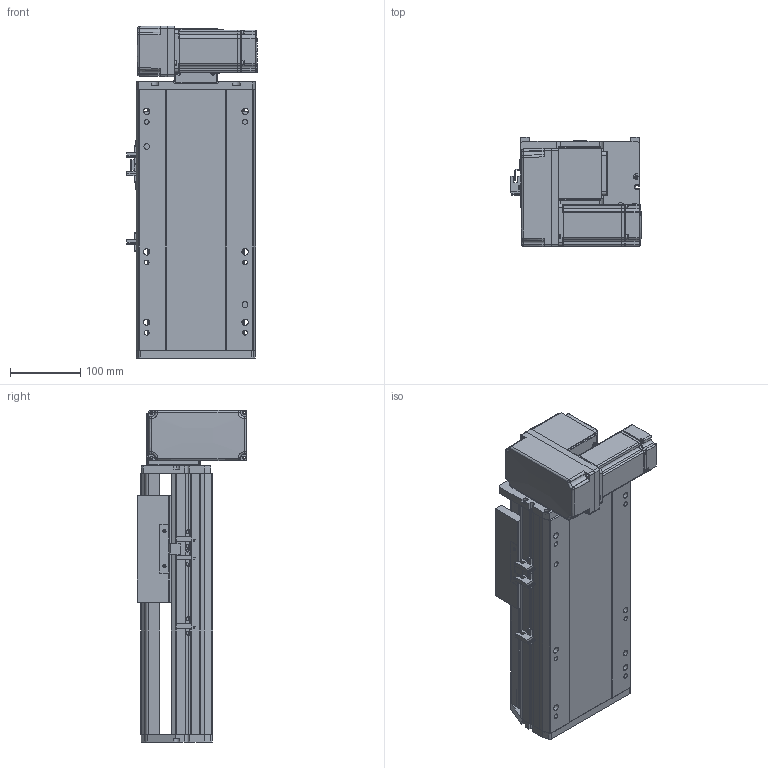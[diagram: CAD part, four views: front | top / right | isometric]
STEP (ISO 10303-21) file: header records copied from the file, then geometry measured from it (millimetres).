
FILE_DESCRIPTION (( 'STEP AP214' ), '1' );
FILE_NAME ('RTB17S-XX-100-LM-M40-C4.STEP', '2025-12-11T06:18:57', ( '' ), ( '' ), 'SwSTEP 2.0', 'SolidWorks 2018', '' );
FILE_SCHEMA (( 'AUTOMOTIVE_DESIGN' ));
Length unit declared in the file: millimetre
Products named in the file (14): RTB17S-XX-100-LM-M40-C4; RTB14-L-005P--轴承塑胶压盖^RTB17S-LM-皮带座装配-400W_RTB17S-XX-XX-LM-M40-C4; RTB14-L-017P^RTB17S-LM-々湍釱蚾饜-400W_RTB17S-XX-XX-LM-M40-C4; RTB17S-LM-々湍釱蚾饜-400W^RTB17S-XX-XX-LM-M40-C4; RTB14-L-008-M20--萇儂啣^RTB17S-LM-々湍釱蚾饜-400W_RTB17S-XX-XX-LM-M40-C4; RTB17S-L-004佪裝蹟譫蟀諉釱^RTB17S-XX-XX-LM-M40-C4; OMRON EE-SX672 传感器^RTB17S-XX-XX-LM-M40-C4; RMP17S-L-014-T20--々湍釱^RTB17S-LM-々湍釱蚾饜-400W_RTB17S-XX-XX-LM-M40-C4; 400W侜督萇儂^RTB17S-XX-XX-LM-M40-C4; RTH13-BL-012覜茼え俋离^RTB17S-XX-XX-LM-M40-C4; RTB17S-L-001耜醱啣^RTB17S-XX-XX-LM-M40-C4; RTB17S-L-007奻裔^RTB17S-XX-XX-LM-M40-C4; RTB17-R-011菁釱^RTB17S-XX-XX-LM-M40-C4; RTB14-L-018P^RTB17S-LM-々湍釱蚾饜-400W_RTB17S-XX-XX-LM-M40-C4
Assembly tree (16 placements, depth 3):
  RTB17S-XX-100-LM-M40-C4
    RTB17-R-011菁釱^RTB17S-XX-XX-LM-M40-C4
    RTB17S-L-007奻裔^RTB17S-XX-XX-LM-M40-C4
    OMRON EE-SX672 传感器^RTB17S-XX-XX-LM-M40-C4  x3
    RTH13-BL-012覜茼え俋离^RTB17S-XX-XX-LM-M40-C4
    RTB17S-L-001耜醱啣^RTB17S-XX-XX-LM-M40-C4
    400W侜督萇儂^RTB17S-XX-XX-LM-M40-C4
    RTB17S-L-004佪裝蹟譫蟀諉釱^RTB17S-XX-XX-LM-M40-C4
    RTB17S-LM-々湍釱蚾饜-400W^RTB17S-XX-XX-LM-M40-C4
      RMP17S-L-014-T20--々湍釱^RTB17S-LM-々湍釱蚾饜-400W_RTB17S-XX-XX-LM-M40-C4
      RTB14-L-005P--轴承塑胶压盖^RTB17S-LM-皮带座装配-400W_RTB17S-XX-XX-LM-M40-C4
      RTB14-L-008-M20--萇儂啣^RTB17S-LM-々湍釱蚾饜-400W_RTB17S-XX-XX-LM-M40-C4
      RTB14-L-017P^RTB17S-LM-々湍釱蚾饜-400W_RTB17S-XX-XX-LM-M40-C4  x2
      RTB14-L-018P^RTB17S-LM-々湍釱蚾饜-400W_RTB17S-XX-XX-LM-M40-C4
Bounding box: 186 x 156.5 x 472.5 mm (x, y, z)
Volume: 5032331.6 mm3; surface area: 698601.9 mm2
Topology: 15 solids, 15 shells, 2141 faces, 5871 edges, 3825 vertices
Faces by surface type: plane 1060, cylinder 633, bspline 301, cone 139, torus 8
Entity records: 59561 total; most frequent: CARTESIAN_POINT 16476, ORIENTED_EDGE 8586, DIRECTION 8036, EDGE_CURVE 4293, VERTEX_POINT 2813, AXIS2_PLACEMENT_3D 2743, VECTOR 2550, LINE 2550
